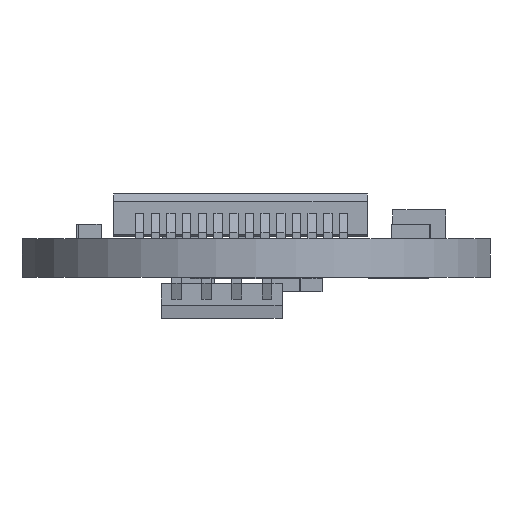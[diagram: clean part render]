
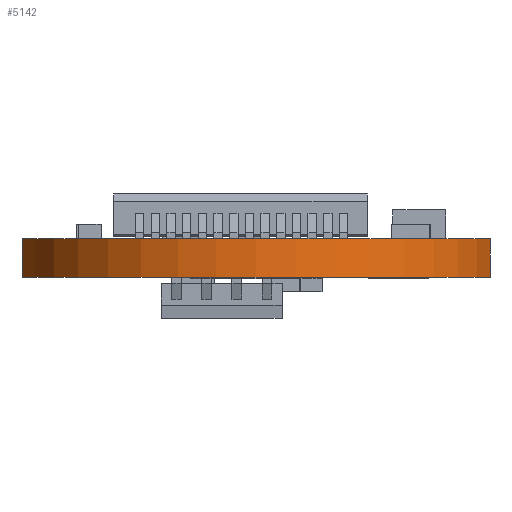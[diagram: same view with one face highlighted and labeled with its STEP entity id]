
A CAD part, left-side view. The second image highlights one B-rep face of the part: STEP entity #5142.
In plain terms, the highlighted cylindrical face has radius 10 mm (diameter 20 mm), a partial arc.
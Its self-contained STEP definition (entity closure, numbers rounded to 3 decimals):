
#363 = DIRECTION ( 'NONE',  ( 0., 0., -1. ) ) ;
#605 = DIRECTION ( 'NONE',  ( -1., 0., 0. ) ) ;
#1463 = CYLINDRICAL_SURFACE ( 'NONE', #6619, 10. ) ;
#1839 = EDGE_CURVE ( 'NONE', #5753, #8641, #2190, .T. ) ;
#2190 = LINE ( 'NONE', #10370, #6439 ) ;
#2281 = AXIS2_PLACEMENT_3D ( 'NONE', #4271, #7849, #605 ) ;
#3184 = CARTESIAN_POINT ( 'NONE',  ( 2.569, 13.602, -1.6 ) ) ;
#3765 = ORIENTED_EDGE ( 'NONE', *, *, #22027, .T. ) ;
#4271 = CARTESIAN_POINT ( 'NONE',  ( 5., 3.902, 0. ) ) ;
#4402 = DIRECTION ( 'NONE',  ( 0., 0., 1. ) ) ;
#4892 = ORIENTED_EDGE ( 'NONE', *, *, #1839, .T. ) ;
#5142 = ADVANCED_FACE ( 'NONE', ( #12510 ), #1463, .T. ) ;
#5753 = VERTEX_POINT ( 'NONE', #15292 ) ;
#5859 = DIRECTION ( 'NONE',  ( -1., 0., 0. ) ) ;
#6439 = VECTOR ( 'NONE', #8804, 1000. ) ;
#6619 = AXIS2_PLACEMENT_3D ( 'NONE', #18911, #4402, #20760 ) ;
#7139 = CIRCLE ( 'NONE', #16809, 10. ) ;
#7453 = CARTESIAN_POINT ( 'NONE',  ( 5., 3.902, -1.6 ) ) ;
#7501 = CARTESIAN_POINT ( 'NONE',  ( 2.569, 13.602, 0. ) ) ;
#7849 = DIRECTION ( 'NONE',  ( 0., 0., -1. ) ) ;
#8641 = VERTEX_POINT ( 'NONE', #16550 ) ;
#8804 = DIRECTION ( 'NONE',  ( 0., 0., 1. ) ) ;
#8955 = EDGE_CURVE ( 'NONE', #9486, #18524, #15522, .T. ) ;
#9486 = VERTEX_POINT ( 'NONE', #3184 ) ;
#10370 = CARTESIAN_POINT ( 'NONE',  ( 2.569, -5.798, -1.6 ) ) ;
#12430 = VECTOR ( 'NONE', #17404, 1000. ) ;
#12510 = FACE_OUTER_BOUND ( 'NONE', #17673, .T. ) ;
#14803 = ORIENTED_EDGE ( 'NONE', *, *, #18077, .F. ) ;
#15292 = CARTESIAN_POINT ( 'NONE',  ( 2.569, -5.798, -1.6 ) ) ;
#15522 = LINE ( 'NONE', #19007, #12430 ) ;
#16550 = CARTESIAN_POINT ( 'NONE',  ( 2.569, -5.798, 0. ) ) ;
#16809 = AXIS2_PLACEMENT_3D ( 'NONE', #7453, #363, #5859 ) ;
#17404 = DIRECTION ( 'NONE',  ( 0., 0., 1. ) ) ;
#17673 = EDGE_LOOP ( 'NONE', ( #3765, #23538, #14803, #4892 ) ) ;
#18077 = EDGE_CURVE ( 'NONE', #5753, #9486, #7139, .T. ) ;
#18524 = VERTEX_POINT ( 'NONE', #7501 ) ;
#18911 = CARTESIAN_POINT ( 'NONE',  ( 5., 3.902, -1.6 ) ) ;
#19007 = CARTESIAN_POINT ( 'NONE',  ( 2.569, 13.602, -1.6 ) ) ;
#20580 = CIRCLE ( 'NONE', #2281, 10. ) ;
#20760 = DIRECTION ( 'NONE',  ( 1., 0., 0. ) ) ;
#22027 = EDGE_CURVE ( 'NONE', #8641, #18524, #20580, .T. ) ;
#23538 = ORIENTED_EDGE ( 'NONE', *, *, #8955, .F. ) ;
